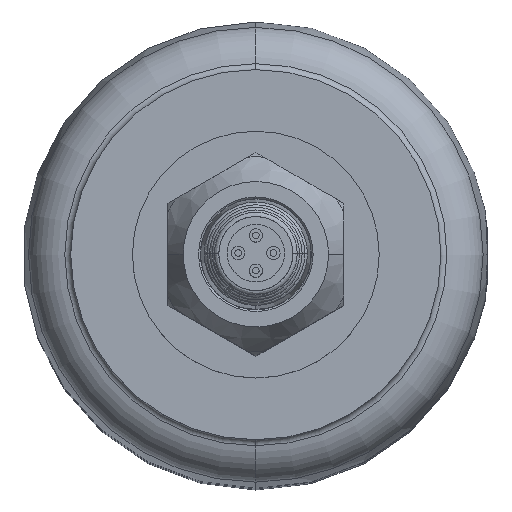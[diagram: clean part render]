
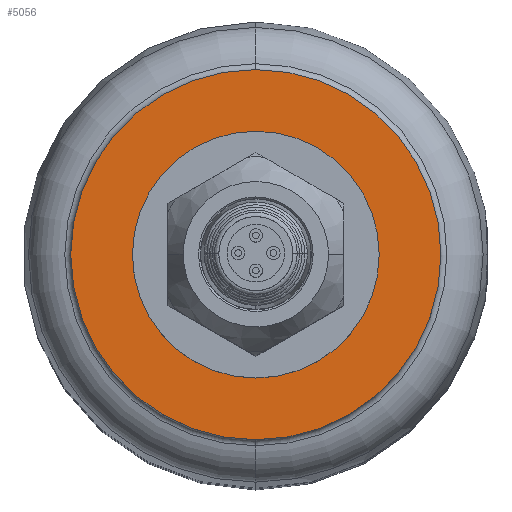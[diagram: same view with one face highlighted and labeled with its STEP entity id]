
A CAD part, top view. The second image highlights one B-rep face of the part: STEP entity #5056.
In plain terms, the highlighted planar face has unit normal (0, 0, 1).
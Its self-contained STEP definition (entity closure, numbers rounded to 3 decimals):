
#846 = DIRECTION ( 'NONE',  ( 0., 0., 1. ) ) ;
#876 = CARTESIAN_POINT ( 'NONE',  ( 0., 0., 86. ) ) ;
#2062 = DIRECTION ( 'NONE',  ( 0., 0., -1. ) ) ;
#2125 = FACE_OUTER_BOUND ( 'NONE', #2597, .T. ) ;
#2497 = AXIS2_PLACEMENT_3D ( 'NONE', #3628, #846, #8405 ) ;
#2597 = EDGE_LOOP ( 'NONE', ( #5224, #4204 ) ) ;
#2897 = VERTEX_POINT ( 'NONE', #5865 ) ;
#2969 = PLANE ( 'NONE',  #2497 ) ;
#3091 = DIRECTION ( 'NONE',  ( 0., 0., -1. ) ) ;
#3123 = CIRCLE ( 'NONE', #7087, 21. ) ;
#3628 = CARTESIAN_POINT ( 'NONE',  ( 0., 0., 86. ) ) ;
#4204 = ORIENTED_EDGE ( 'NONE', *, *, #4476, .F. ) ;
#4476 = EDGE_CURVE ( 'NONE', #2897, #8302, #5329, .T. ) ;
#5056 = ADVANCED_FACE ( 'NONE', ( #2125 ), #2969, .T. ) ;
#5190 = AXIS2_PLACEMENT_3D ( 'NONE', #6370, #3091, #6463 ) ;
#5224 = ORIENTED_EDGE ( 'NONE', *, *, #5489, .F. ) ;
#5329 = CIRCLE ( 'NONE', #5190, 21. ) ;
#5489 = EDGE_CURVE ( 'NONE', #8302, #2897, #3123, .T. ) ;
#5518 = DIRECTION ( 'NONE',  ( 0., 1., 0. ) ) ;
#5865 = CARTESIAN_POINT ( 'NONE',  ( 0., -21., 86. ) ) ;
#6370 = CARTESIAN_POINT ( 'NONE',  ( 0., 0., 86. ) ) ;
#6463 = DIRECTION ( 'NONE',  ( 0., 1., 0. ) ) ;
#6499 = CARTESIAN_POINT ( 'NONE',  ( 0., 21., 86. ) ) ;
#7087 = AXIS2_PLACEMENT_3D ( 'NONE', #876, #2062, #5518 ) ;
#8302 = VERTEX_POINT ( 'NONE', #6499 ) ;
#8405 = DIRECTION ( 'NONE',  ( 0., -1., 0. ) ) ;
